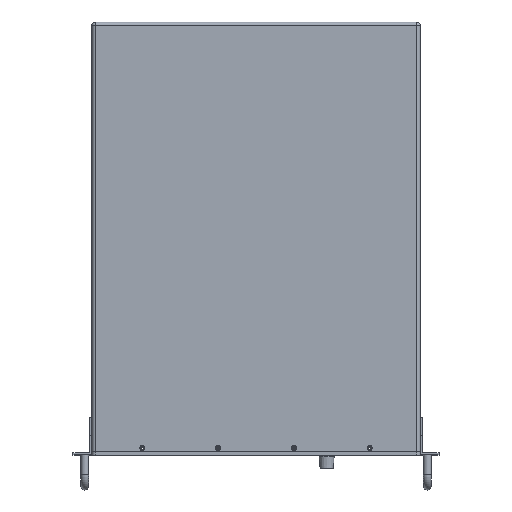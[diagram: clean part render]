
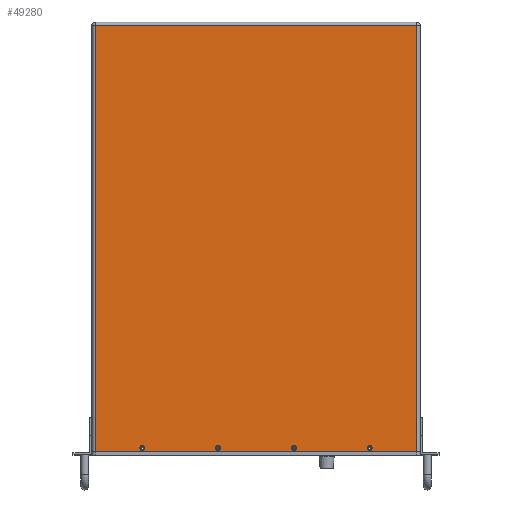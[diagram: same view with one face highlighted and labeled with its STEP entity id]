
A CAD part, top view. The second image highlights one B-rep face of the part: STEP entity #49280.
In plain terms, the highlighted planar face has unit normal (0, 0, 1) as drawn and (0, 0, -1) by its records, which use the part's own axes.
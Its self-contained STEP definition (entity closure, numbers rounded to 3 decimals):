
#1816=LINE('',#74664,#6529);
#2551=LINE('',#77608,#7264);
#2552=LINE('',#77613,#7265);
#2562=LINE('',#77631,#7275);
#6529=VECTOR('',#60244,423.6);
#7264=VECTOR('',#62461,562.);
#7265=VECTOR('',#62466,562.);
#7275=VECTOR('',#62482,423.6);
#10208=PLANE('',#53149);
#12308=FACE_BOUND('',#17450,.T.);
#12309=FACE_BOUND('',#17451,.T.);
#12310=FACE_BOUND('',#17452,.T.);
#12311=FACE_BOUND('',#17453,.T.);
#13741=FACE_OUTER_BOUND('',#17449,.T.);
#17449=EDGE_LOOP('',(#39313,#39314,#39315,#39316));
#17450=EDGE_LOOP('',(#39317));
#17451=EDGE_LOOP('',(#39318));
#17452=EDGE_LOOP('',(#39319));
#17453=EDGE_LOOP('',(#39320));
#20065=CIRCLE('',#52176,3.25);
#20071=CIRCLE('',#52186,3.25);
#20074=CIRCLE('',#52191,3.25);
#20077=CIRCLE('',#52196,3.25);
#23169=VERTEX_POINT('',#73971);
#23175=VERTEX_POINT('',#73987);
#23178=VERTEX_POINT('',#73995);
#23181=VERTEX_POINT('',#74003);
#23389=VERTEX_POINT('',#74661);
#23390=VERTEX_POINT('',#74663);
#24827=VERTEX_POINT('',#77604);
#24830=VERTEX_POINT('',#77611);
#28480=EDGE_CURVE('',#23169,#23169,#20065,.T.);
#28486=EDGE_CURVE('',#23175,#23175,#20071,.T.);
#28489=EDGE_CURVE('',#23178,#23178,#20074,.T.);
#28492=EDGE_CURVE('',#23181,#23181,#20077,.T.);
#28761=EDGE_CURVE('',#23389,#23390,#1816,.T.);
#30222=EDGE_CURVE('',#23390,#24827,#2551,.T.);
#30224=EDGE_CURVE('',#24830,#23389,#2552,.T.);
#30234=EDGE_CURVE('',#24827,#24830,#2562,.T.);
#39313=ORIENTED_EDGE('',*,*,#30222,.F.);
#39314=ORIENTED_EDGE('',*,*,#28761,.F.);
#39315=ORIENTED_EDGE('',*,*,#30224,.F.);
#39316=ORIENTED_EDGE('',*,*,#30234,.F.);
#39317=ORIENTED_EDGE('',*,*,#28480,.T.);
#39318=ORIENTED_EDGE('',*,*,#28486,.T.);
#39319=ORIENTED_EDGE('',*,*,#28489,.T.);
#39320=ORIENTED_EDGE('',*,*,#28492,.T.);
#49280=ADVANCED_FACE('',(#13741,#12308,#12309,#12310,#12311),#10208,.F.);
#52176=AXIS2_PLACEMENT_3D('',#73972,#59637,#59638);
#52186=AXIS2_PLACEMENT_3D('',#73988,#59657,#59658);
#52191=AXIS2_PLACEMENT_3D('',#73996,#59667,#59668);
#52196=AXIS2_PLACEMENT_3D('',#74004,#59677,#59678);
#53149=AXIS2_PLACEMENT_3D('',#77630,#62480,#62481);
#59637=DIRECTION('center_axis',(0.,0.,1.));
#59638=DIRECTION('ref_axis',(1.,0.,0.));
#59657=DIRECTION('center_axis',(0.,0.,1.));
#59658=DIRECTION('ref_axis',(1.,0.,0.));
#59667=DIRECTION('center_axis',(0.,0.,1.));
#59668=DIRECTION('ref_axis',(1.,0.,0.));
#59677=DIRECTION('center_axis',(0.,0.,1.));
#59678=DIRECTION('ref_axis',(1.,0.,0.));
#60244=DIRECTION('',(-1.,0.,0.));
#62461=DIRECTION('',(0.,-1.,0.));
#62466=DIRECTION('',(0.,1.,0.));
#62480=DIRECTION('center_axis',(0.,0.,1.));
#62481=DIRECTION('ref_axis',(1.,0.,0.));
#62482=DIRECTION('',(1.,0.,0.));
#73971=CARTESIAN_POINT('',(-153.25,-359.85,-1.25));
#73972=CARTESIAN_POINT('Origin',(-150.,-359.85,-1.25));
#73987=CARTESIAN_POINT('',(-53.25,-359.85,-1.25));
#73988=CARTESIAN_POINT('Origin',(-50.,-359.85,-1.25));
#73995=CARTESIAN_POINT('',(46.75,-359.85,-1.25));
#73996=CARTESIAN_POINT('Origin',(50.,-359.85,-1.25));
#74003=CARTESIAN_POINT('',(146.75,-359.85,-1.25));
#74004=CARTESIAN_POINT('Origin',(150.,-359.85,-1.25));
#74661=CARTESIAN_POINT('',(211.8,197.35,-1.25));
#74663=CARTESIAN_POINT('',(-211.8,197.35,-1.25));
#74664=CARTESIAN_POINT('',(211.8,197.35,-1.25));
#77604=CARTESIAN_POINT('',(-211.8,-364.65,-1.25));
#77608=CARTESIAN_POINT('',(-211.8,197.35,-1.25));
#77611=CARTESIAN_POINT('',(211.8,-364.65,-1.25));
#77613=CARTESIAN_POINT('',(211.8,-364.65,-1.25));
#77630=CARTESIAN_POINT('Origin',(0.,-79.55,-1.25));
#77631=CARTESIAN_POINT('',(-211.8,-364.65,-1.25));
